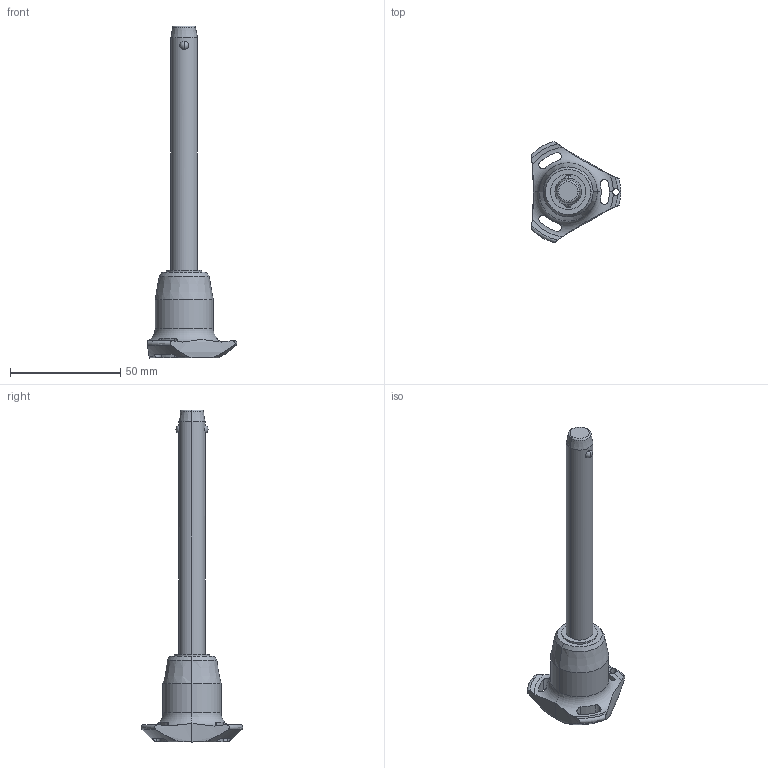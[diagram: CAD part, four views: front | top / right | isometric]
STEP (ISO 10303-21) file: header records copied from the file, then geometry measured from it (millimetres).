
FILE_DESCRIPTION (( 'STEP AP203' ), '1' );
FILE_NAME ('QR1724.M12-100-S.step', '2025-11-12T13:00:05', ( '' ), ( '' ), 'SwSTEP 2.0', 'SolidWorks 2019', '' );
FILE_SCHEMA (( 'CONFIG_CONTROL_DESIGN' ));
Length unit declared in the file: millimetre
Products named in the file (1): QR1724.M12-100-S
Bounding box: 40.5 x 45.88 x 150.3 mm (x, y, z)
Volume: 34444.9 mm3; surface area: 10107.5 mm2
Topology: 1 solids, 1 shells, 65 faces, 178 edges, 113 vertices
Faces by surface type: cylinder 30, cone 14, torus 11, sphere 6, plane 4
Entity records: 2862 total; most frequent: CARTESIAN_POINT 1173, ORIENTED_EDGE 356, DIRECTION 329, EDGE_CURVE 178, AXIS2_PLACEMENT_3D 147, VERTEX_POINT 113, CIRCLE 81, EDGE_LOOP 71
